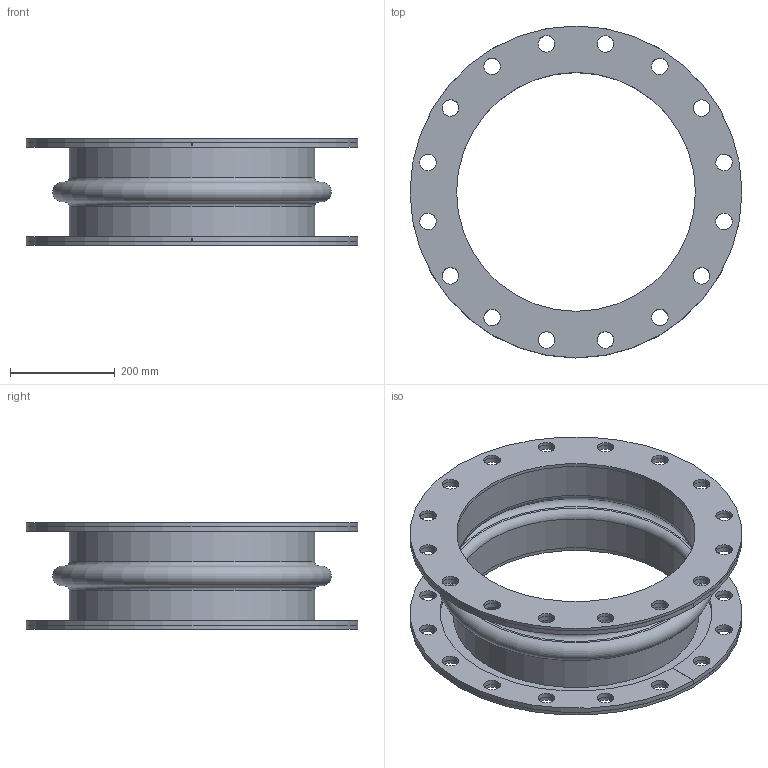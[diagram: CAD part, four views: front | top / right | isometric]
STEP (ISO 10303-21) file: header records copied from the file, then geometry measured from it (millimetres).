
FILE_DESCRIPTION(/* description */ (''),/* implementation_level */ '2;1');
FILE_NAME(/* name */ '18x8.stp',/* time_stamp */ '2026-07-21T16:19:43-05:00',/* author */ ('linda'),/* organization */ (''),/* preprocessor_version */ 'ST-DEVELOPER v20.1',/* originating_system */ 'Autodesk Inventor 2026',/* authorisation */ '');
FILE_SCHEMA (('AUTOMOTIVE_DESIGN { 1 0 10303 214 3 1 1 }'));
Length unit declared in the file: inch
Products named in the file (1): Part16
Bounding box: 635 x 635 x 203.2 mm (x, y, z)
Volume: 5702402.6 mm3; surface area: 1763265.1 mm2
Topology: 5 solids, 5 shells, 110 faces, 282 edges, 188 vertices
Faces by surface type: cylinder 80, plane 24, torus 6
Full cylindrical faces by diameter (mm): 31.75 x64, 457.2 x4, 469.9 x2, 635 x2
Entity records: 3873 total; most frequent: DIRECTION 682, CARTESIAN_POINT 581, ORIENTED_EDGE 564, AXIS2_PLACEMENT_3D 289, EDGE_CURVE 282, EDGE_LOOP 246, VERTEX_POINT 188, CIRCLE 178
